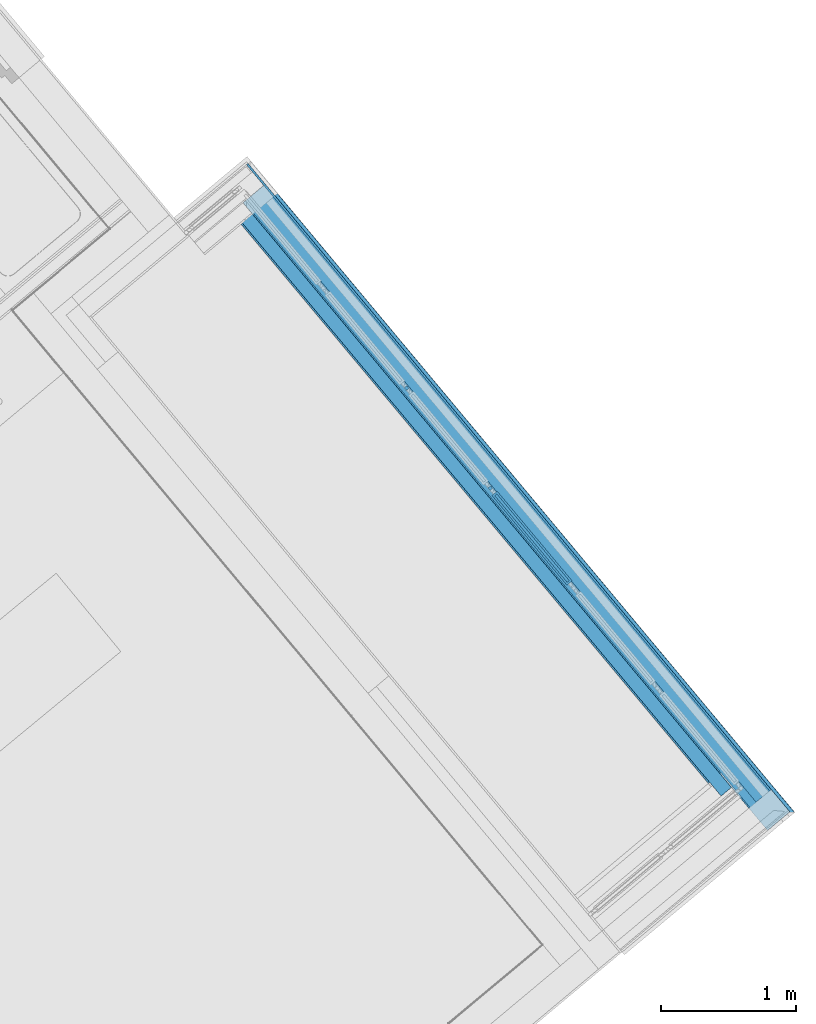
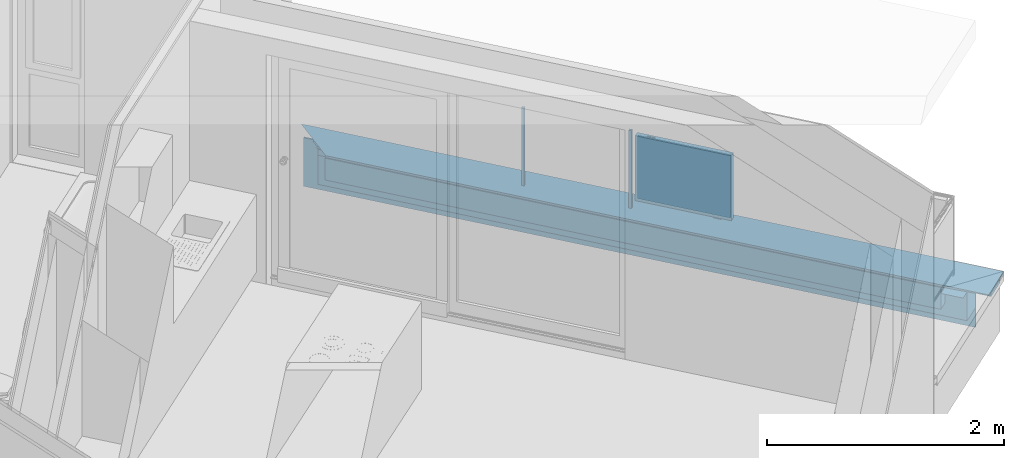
# One storey, part 37 of 53: 10 building element parts, 2 elements without a shape of their own.
"""IFC4 building model written with IfcOpenShell, lengths in metres."""

from ifc_helpers import new_model, entity, si_unit, converted_unit, derived_unit, direction, frame, origin_with_axes, place, context, subcontext, project, spatial, polygons, material, type_object, element, aggregate, save


model = new_model("IFC4")

# Units and contexts
model_context = context("Model", 3, precision=1e-05, world=origin_with_axes(), true_north=direction((0.0, 1.0)))
body_context = subcontext(model_context, "Body", "Model", "MODEL_VIEW")
ifc_project = project(units=[si_unit("LENGTHUNIT", "METRE"), si_unit("AREAUNIT", "SQUARE_METRE"), si_unit("VOLUMEUNIT", "CUBIC_METRE"), converted_unit("PLANEANGLEUNIT", "DEGREE", entity("IfcPlaneAngleMeasure", 0.0174532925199), si_unit("PLANEANGLEUNIT", "RADIAN"), dimensions=[0, 0, 0, 0, 0, 0, 0]), converted_unit("TIMEUNIT", "Year", entity("IfcTimeMeasure", 31556926.0), si_unit("TIMEUNIT", "SECOND"), dimensions=[0, 0, 1, 0, 0, 0, 0]), si_unit("MASSUNIT", "GRAM", prefix="KILO"), si_unit("THERMODYNAMICTEMPERATUREUNIT", "DEGREE_CELSIUS"), si_unit("LUMINOUSINTENSITYUNIT", "LUMEN"), si_unit("ENERGYUNIT", "JOULE", prefix="MEGA"), derived_unit("THERMALCONDUCTANCEUNIT", [(si_unit("POWERUNIT", "WATT"), 1), (si_unit("LENGTHUNIT", "METRE"), -1), (si_unit("THERMODYNAMICTEMPERATUREUNIT", "KELVIN"), -1)]), derived_unit("SPECIFICHEATCAPACITYUNIT", [(si_unit("ENERGYUNIT", "JOULE"), 1), (si_unit("MASSUNIT", "GRAM", prefix="KILO"), -1), (si_unit("THERMODYNAMICTEMPERATUREUNIT", "KELVIN"), -1)]), derived_unit("MASSDENSITYUNIT", [(si_unit("MASSUNIT", "GRAM", prefix="KILO"), 1), (si_unit("VOLUMEUNIT", "CUBIC_METRE"), -1)])], contexts=[model_context])

# Site, building, storey
site_placement = place(None, frame((-0.00153261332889, -0.00661245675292, 0.0), z_axis=(0.0, 0.0, 1.0), x_axis=(1.0, 0.0, 0.0)))
site = spatial("IfcSite", under=ifc_project, at=site_placement, Name="Gelände", CompositionType="ELEMENT")
building_placement = place(site_placement, origin_with_axes())
building = spatial("IfcBuilding", under=site, at=building_placement, Name="Gebäude", CompositionType="ELEMENT")
storey_placement = place(building_placement, frame((0.0, 0.0, 2.74), z_axis=(0.0, 0.0, 1.0), x_axis=(1.0, 0.0, 0.0)))
storey = spatial("IfcBuildingStorey", under=building, at=storey_placement, Name="OG1", CompositionType="ELEMENT", Elevation=2.74)

# Wall, building element parts
wall_type = type_object("IfcWallType", Name="Bauteil - Attika Balkon 356 x 610", PredefinedType="NOTDEFINED")
wall_placement = place(storey_placement, frame((10.5963720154, 25.814959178, -0.2), z_axis=(0.0, 0.0, 1.0), x_axis=(0.641206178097, -0.767368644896, 0.0)))
wall = element("IfcWall", 1, at=wall_placement, inside=storey, type_object=wall_type, Name="Wand-003", PredefinedType="NOTDEFINED")
ifc_material_1 = material(Name="Zementputz")
building_element_part_1_placement = place(wall_placement, origin_with_axes())
building_element_part_1 = element("IfcBuildingElementPart", 2, at=building_element_part_1_placement, material=ifc_material_1, Name="Zementputz", PredefinedType="NOTDEFINED", context=body_context, shape_type="Tessellation", body=[
    polygons([(5.82966796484, 0.199999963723, 0.500000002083), (5.82966789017, 0.214999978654, 0.500000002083), (-0.200001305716, 0.214999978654, 0.500000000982), (-0.200001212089, 0.199999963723, 0.500000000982), (5.82966789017, 0.214999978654, 0.498915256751), (5.82966796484, 0.199999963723, 0.498915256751), (5.82966789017, 0.214999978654, 0.498822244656), (5.82966789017, 0.214999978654, 0.496604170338), (5.82966789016, 0.214999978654, 0.491006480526), (5.82966789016, 0.214999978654, 0.488695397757), (5.82966789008, 0.214999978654, 0.335), (5.82966789, 0.214999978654, 0.200000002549), (5.82966789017, 0.214999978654, 0.0), (-0.200001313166, 0.214999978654, 0.0), (-0.200001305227, 0.214999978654, 0.2), (-0.200001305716, 0.214999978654, 0.334999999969), (-0.200001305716, 0.214999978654, 0.496604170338), (-0.200001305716, 0.214999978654, 0.498915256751), (-0.200001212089, 0.199999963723, 0.498915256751), (-0.200001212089, 0.199999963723, 0.496604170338), (-0.200001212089, 0.199999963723, 0.334999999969), (-0.2000012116, 0.199999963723, 0.2), (5.82966796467, 0.199999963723, 0.200000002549), (5.82966796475, 0.199999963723, 0.335), (5.82966796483, 0.199999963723, 0.488695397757), (5.82966796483, 0.199999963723, 0.491006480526), (5.82966796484, 0.199999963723, 0.496604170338), (5.82966796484, 0.199999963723, 0.498822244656), (5.82966796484, 0.199999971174, 0.0), (-0.200001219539, 0.199999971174, 0.0)], [[[1, 2, 3, 4]], [[5, 2, 1, 6]], [[2, 5, 7, 8, 9, 10, 11, 12, 13, 14, 15, 16, 17, 18, 3]], [[4, 3, 18, 19]], [[6, 1, 4, 19, 20, 21, 22, 23, 24, 25, 26, 27, 28]], [[5, 6, 28, 7]], [[7, 28, 27, 8]], [[8, 27, 26, 9]], [[9, 26, 25, 10]], [[10, 25, 24, 11]], [[11, 24, 23, 12]], [[12, 23, 29, 13]], [[13, 29, 30, 14]], [[22, 15, 14, 30]], [[21, 16, 15, 22]], [[20, 17, 16, 21]], [[19, 18, 17, 20]], [[29, 23, 22, 30]]], closed=True),
])
ifc_material_2 = material(Name="Brettschichtholz")
building_element_part_2_placement = place(wall_placement, origin_with_axes())
building_element_part_2 = element("IfcBuildingElementPart", 3, at=building_element_part_2_placement, material=ifc_material_2, Name="Brettschichtholz", PredefinedType="NOTDEFINED", context=body_context, shape_type="Tessellation", body=[
    polygons([(6.04466799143, 0.190124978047, 0.560000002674), (6.0446678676, 0.214999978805, 0.560000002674), (-1.34205095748e-06, 0.214999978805, 0.560000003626), (-1.18678595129e-06, 0.190124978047, 0.560000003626), (6.04466786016, 0.214999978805, 0.519273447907), (6.04466829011, 0.130124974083, 0.560000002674), (6.0446685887, 0.0701429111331, 0.560000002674), (6.04466888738, 0.010142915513, 0.560000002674), (6.04466893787, 0.0, 0.560000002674), (6.04466893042, 0.0, 0.519273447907), (6.04466786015, 0.214999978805, 0.519224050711), (6.04466785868, 0.214999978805, 0.511410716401), (6.04466785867, 0.214999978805, 0.51136132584), (6.04466785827, 0.214999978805, 0.509099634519), (6.04466785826, 0.214999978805, 0.509050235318), (6.04466785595, 0.214999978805, 0.50000001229), (-1.34205095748e-06, 0.214999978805, 0.499999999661), (-1.34205096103e-06, 0.214999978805, 0.506731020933), (-1.34205096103e-06, 0.214999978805, 0.509099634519), (-1.34205096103e-06, 0.214999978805, 0.511410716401), (-1.34205096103e-06, 0.214999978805, 0.519273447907), (0.0, 0.0, 0.519273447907), (0.0, 0.0, 0.560000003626), (-6.33722585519e-08, 0.010142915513, 0.560000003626), (-4.378807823e-07, 0.0701429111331, 0.560000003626), (-8.12277374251e-07, 0.130124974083, 0.560000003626), (0.0, 0.0, 0.511410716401), (0.0, 0.0, 0.509099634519), (0.0, 0.0, 0.506731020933), (0.0, 0.0, 0.499999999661), (6.04466892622, 0.0, 0.50000001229), (6.04466892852, 0.0, 0.509050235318), (6.04466892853, 0.0, 0.509099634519), (6.04466892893, 0.0, 0.51136132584), (6.04466892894, 0.0, 0.511410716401), (6.04466893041, 0.0, 0.519224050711)], [[[1, 2, 3, 4]], [[5, 2, 1, 6, 7, 8, 9, 10]], [[2, 5, 11, 12, 13, 14, 15, 16, 17, 18, 19, 20, 21, 3]], [[4, 3, 21, 22, 23, 24, 25, 26]], [[6, 1, 4, 26]], [[7, 6, 26, 25]], [[8, 7, 25, 24]], [[9, 8, 24, 23]], [[10, 9, 23, 22, 27, 28, 29, 30, 31, 32, 33, 34, 35, 36]], [[5, 10, 36, 11]], [[11, 36, 35, 12]], [[12, 35, 34, 13]], [[13, 34, 33, 14]], [[14, 33, 32, 15]], [[15, 32, 31, 16]], [[30, 17, 16, 31]], [[29, 18, 17, 30]], [[28, 19, 18, 29]], [[27, 20, 19, 28]], [[22, 21, 20, 27]]], closed=True),
])
ifc_material_3 = material(Name="Stahlbeton")
building_element_part_3_placement = place(wall_placement, origin_with_axes())
building_element_part_3 = element("IfcBuildingElementPart", 4, at=building_element_part_3_placement, material=ifc_material_3, Name="Stahlbeton", PredefinedType="NOTDEFINED", context=body_context, shape_type="Tessellation", body=[
    polygons([(5.82966896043, 1.05297104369e-09, 0.500000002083), (5.82966796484, 0.19999996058, 0.500000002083), (-1.24941457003e-06, 0.19999996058, 0.500000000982), (-1.05297814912e-09, 1.05297104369e-09, 0.500000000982), (5.82966796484, 0.19999996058, 0.498915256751), (5.82966896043, 1.05297104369e-09, 0.498915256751), (5.82966796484, 0.19999996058, 0.498822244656), (5.82966796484, 0.19999996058, 0.496604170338), (5.82966796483, 0.19999996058, 0.491006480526), (5.82966796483, 0.19999996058, 0.488695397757), (5.82966796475, 0.19999996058, 0.335), (5.82966796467, 0.19999996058, 0.200000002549), (-1.24941457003e-06, 0.19999996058, 0.2), (-1.24941457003e-06, 0.19999996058, 0.334999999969), (-1.24941457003e-06, 0.19999996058, 0.496604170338), (-1.24941457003e-06, 0.19999996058, 0.498915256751), (-1.05298170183e-09, 1.0529745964e-09, 0.498915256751), (-1.05298170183e-09, 1.0529745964e-09, 0.496604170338), (-1.05297814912e-09, 1.05297104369e-09, 0.334999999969), (5.82966896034, 1.05297104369e-09, 0.335), (5.82966896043, 1.05297104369e-09, 0.488695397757), (5.82966896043, 1.05297104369e-09, 0.491006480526), (5.82966896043, 1.05297104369e-09, 0.496604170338), (5.82966896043, 1.05296749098e-09, 0.498822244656), (5.82966896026, 1.05297104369e-09, 0.200000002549), (-1.05298170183e-09, 1.05297104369e-09, 0.2)], [[[1, 2, 3, 4]], [[5, 2, 1, 6]], [[2, 5, 7, 8, 9, 10, 11, 12, 13, 14, 15, 16, 3]], [[4, 3, 16, 17]], [[6, 1, 4, 17, 18, 19, 20, 21, 22, 23, 24]], [[5, 6, 24, 7]], [[7, 24, 23, 8]], [[8, 23, 22, 9]], [[9, 22, 21, 10]], [[10, 21, 20, 11]], [[11, 20, 25, 12]], [[12, 25, 26, 13]], [[19, 14, 13, 26]], [[18, 15, 14, 19]], [[17, 16, 15, 18]], [[25, 20, 19, 26]]], closed=True),
])
ifc_material_4 = material(Name="Vollholz")
building_element_part_4_placement = place(wall_placement, origin_with_axes())
building_element_part_4 = element("IfcBuildingElementPart", 5, at=building_element_part_4_placement, material=ifc_material_4, Name="Vollholz", PredefinedType="NOTDEFINED", context=body_context, shape_type="Tessellation", body=[
    polygons([(6.01968753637, 0.0100326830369, 0.57982217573), (6.0196759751, 0.0701429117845, 0.581921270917), (-0.0701433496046, 0.0701429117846, 0.581921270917), (-0.0100327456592, 0.010032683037, 0.579822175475), (6.01968723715, 0.0701429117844, 0.57982217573), (6.01970785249, 0.0701429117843, 0.575979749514), (5.95979359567, 0.0701429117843, 0.575979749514), (5.72966861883, 0.0701429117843, 0.575979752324), (5.7296686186, 0.0701429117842, 0.575576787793), (5.72966861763, 0.0701429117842, 0.573880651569), (5.72966861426, 0.0701429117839, 0.567947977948), (5.72966860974, 0.0701429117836, 0.560000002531), (-0.0101433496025, 0.0701429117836, 0.560000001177), (-0.010056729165, 0.0701429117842, 0.575576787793), (-0.0100331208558, 0.0701429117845, 0.579822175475), (6.01970815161, 0.0100540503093, 0.575979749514), (-0.0100563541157, 0.0100562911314, 0.575576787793), (-0.0101429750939, 0.0101429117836, 0.560000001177), (5.72966890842, 0.0101429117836, 0.560000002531), (5.72966891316, 0.0100987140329, 0.567947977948), (5.7296689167, 0.0100657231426, 0.573880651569), (5.72966891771, 0.0100562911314, 0.575576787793), (5.72966891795, 0.0100540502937, 0.575979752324), (5.95979389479, 0.0100540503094, 0.575979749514)], [[[1, 2, 3, 4]], [[5, 2, 1]], [[2, 5, 6, 7, 8, 9, 10, 11, 12, 13, 14, 15, 3]], [[3, 15, 4]], [[16, 1, 4, 17, 18, 19, 20, 21, 22, 23, 24]], [[5, 1, 16, 6]], [[6, 16, 24, 7]], [[8, 7, 24, 23]], [[9, 8, 23, 22]], [[9, 22, 21, 10]], [[10, 21, 20, 11]], [[11, 20, 19, 12]], [[12, 19, 18, 13]], [[17, 14, 13, 18]], [[4, 15, 14, 17]]], closed=True),
])
ifc_material_5 = material(Name="EPS 1")
building_element_part_5_placement = place(wall_placement, origin_with_axes())
building_element_part_5 = element("IfcBuildingElementPart", 6, at=building_element_part_5_placement, material=ifc_material_5, Name="EPS 1", PredefinedType="NOTDEFINED", context=body_context, shape_type="Tessellation", body=[
    polygons([(5.62966945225, -0.0999999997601, 0.560000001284), (5.62966895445, 2.39904096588e-10, 0.560000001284), (0.099999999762, 2.39911202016e-10, 0.560000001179), (0.100000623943, -0.0999999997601, 0.560000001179), (5.62966896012, 2.39904096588e-10, 0.519273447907), (5.62966945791, -0.0999999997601, 0.519273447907), (5.62966896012, 2.39904096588e-10, 0.519224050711), (5.62966896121, 2.39907649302e-10, 0.511410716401), (5.62966896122, 2.39904096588e-10, 0.51136132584), (5.62966896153, 2.39907649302e-10, 0.509099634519), (5.62966896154, 2.39907649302e-10, 0.509050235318), (5.62966896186, 2.39904096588e-10, 0.506731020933), (5.6296689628, 2.39932518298e-10, 0.500000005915), (5.62966895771, 2.39904096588e-10, 0.498915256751), (5.82966896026, 2.39904096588e-10, 0.498915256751), (5.62966895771, 2.39904096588e-10, 0.498822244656), (5.62966895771, 2.39904096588e-10, 0.496604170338), (5.62966895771, 2.39904096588e-10, 0.491006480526), (5.62966895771, 2.39904096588e-10, 0.488695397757), (5.62966895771, 2.39904096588e-10, 0.334999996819), (0.099999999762, 2.39911202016e-10, 0.334999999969), (0.099999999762, 2.39911202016e-10, 0.496604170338), (0.099999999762, 2.39911202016e-10, 0.498915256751), (0.099999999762, 2.39911202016e-10, 0.499999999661), (0.099999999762, 2.39911202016e-10, 0.506731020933), (0.099999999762, 2.39911202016e-10, 0.509099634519), (0.099999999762, 2.39911202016e-10, 0.511410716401), (0.099999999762, 2.39911202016e-10, 0.519273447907), (0.100000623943, -0.0999999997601, 0.519273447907), (0.100000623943, -0.0999999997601, 0.511410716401), (0.100000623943, -0.0999999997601, 0.509099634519), (0.100000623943, -0.0999999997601, 0.506731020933), (0.100000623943, -0.0999999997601, 0.499999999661), (0.100000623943, -0.0999999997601, 0.498915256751), (0.100000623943, -0.0999999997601, 0.496604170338), (0.100000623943, -0.0999999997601, 0.334999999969), (5.62966945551, -0.0999999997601, 0.334999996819), (5.62966945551, -0.0999999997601, 0.488695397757), (5.62966945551, -0.0999999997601, 0.491006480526), (5.62966945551, -0.0999999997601, 0.496604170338), (5.62966945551, -0.0999999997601, 0.498915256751), (5.6296694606, -0.0999999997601, 0.500000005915), (5.62966945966, -0.0999999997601, 0.506731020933), (5.62966945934, -0.0999999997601, 0.509050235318), (5.62966945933, -0.0999999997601, 0.509099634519), (5.62966945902, -0.0999999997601, 0.51136132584), (5.62966945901, -0.0999999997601, 0.511410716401), (5.62966945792, -0.0999999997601, 0.519224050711), (5.82966945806, -0.0999999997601, 0.498915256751)], [[[1, 2, 3, 4]], [[5, 2, 1, 6]], [[2, 5, 7, 8, 9, 10, 11, 12, 13, 14, 15, 16, 17, 18, 19, 20, 21, 22, 23, 24, 25, 26, 27, 28, 3]], [[3, 28, 29, 4]], [[6, 1, 4, 29, 30, 31, 32, 33, 34, 35, 36, 37, 38, 39, 40, 41, 42, 43, 44, 45, 46, 47, 48]], [[5, 6, 48, 7]], [[48, 47, 8, 7]], [[46, 9, 8, 47]], [[10, 9, 46, 45]], [[44, 11, 10, 45]], [[12, 11, 44, 43]], [[12, 43, 42, 13]], [[42, 41, 14, 13]], [[14, 41, 49, 15]], [[15, 49, 16]], [[16, 41, 40, 17]], [[40, 39, 18, 17]], [[19, 18, 39, 38]], [[19, 38, 37, 20]], [[37, 36, 21, 20]], [[21, 36, 35, 22]], [[35, 34, 23, 22]], [[33, 24, 23, 34]], [[33, 32, 25, 24]], [[32, 31, 26, 25]], [[27, 26, 31, 30]], [[28, 27, 30, 29]], [[49, 41, 16]]], closed=True),
])
ifc_material_6 = material(Name="Holzwerkstoff")
building_element_part_6_placement = place(wall_placement, origin_with_axes())
building_element_part_6 = element("IfcBuildingElementPart", 7, at=building_element_part_6_placement, material=ifc_material_6, Name="Holzwerkstoff", PredefinedType="NOTDEFINED", context=body_context, shape_type="Tessellation", body=[
    polygons([(0.111540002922, -0.111539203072, 0.575576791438), (0.11168825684, -0.111687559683, 0.579822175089), (0.111687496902, 0.0100327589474, 0.579822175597), (0.111761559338, -0.111760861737, 0.581921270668), (5.71813019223, -0.111539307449, 0.575576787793), (5.72966952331, -0.111553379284, 0.575979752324), (5.83970216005, -0.111687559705, 0.57982217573), (5.89981240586, -0.111760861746, 0.581921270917), (5.95979449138, -0.111834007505, 0.584015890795), (6.0196544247, -0.111907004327, 0.586106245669), (6.06966950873, -0.111967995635, 0.587852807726), (6.06966655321, -0.111970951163, 0.587937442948), (6.06939037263, -0.112247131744, 0.595846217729), (0.11224783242, -0.112247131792, 0.5958462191), (0.111907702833, -0.111907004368, 0.586106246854), (0.111834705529, -0.11183400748, 0.584015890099), (0.111760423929, 0.0701429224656, 0.581921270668), (5.83970155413, 0.0100327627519, 0.57982217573), (5.7296694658, -0.0999999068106, 0.575979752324), (5.89981148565, 0.0701429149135, 0.581921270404), (5.95979328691, 0.130124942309, 0.584015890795), (6.01965290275, 0.189984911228, 0.586106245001), (6.06966775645, 0.23999998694, 0.587852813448), (6.06966480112, 0.239997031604, 0.587937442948), (6.06938862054, 0.239720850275, 0.595846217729), (-0.239277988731, 0.239276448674, 0.608570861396), (6.068944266, 0.23927649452, 0.608570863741), (0.112245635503, 0.239720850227, 0.5958462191), (0.11196649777, 0.23999998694, 0.587852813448), (0.11190581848, 0.189984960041, 0.586106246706), (0.111833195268, 0.130124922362, 0.584015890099)], [[[1, 2, 3]], [[4, 2, 1, 5, 6, 7, 8, 9, 10, 11, 12, 13, 14, 15, 16]], [[2, 4, 17, 3]], [[1, 3, 18, 19, 5]], [[6, 5, 19]], [[7, 6, 19, 18]], [[8, 7, 18, 20]], [[9, 8, 20, 21]], [[10, 9, 21, 22]], [[11, 10, 22, 23]], [[11, 23, 24, 12]], [[13, 12, 24, 25]], [[26, 14, 13, 27]], [[15, 14, 28, 29, 30]], [[16, 15, 30, 31]], [[4, 16, 31, 17]], [[3, 17, 20, 18]], [[17, 31, 21, 20]], [[31, 30, 22, 21]], [[30, 29, 23, 22]], [[29, 28, 26, 27, 25, 24, 23]], [[13, 25, 27]], [[28, 14, 26]]], closed=True),
])
aggregate(wall, [building_element_part_1, building_element_part_2, building_element_part_3, building_element_part_4, building_element_part_5, building_element_part_6])

# Space
space_placement = place(storey_placement, frame((9.48027034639, 24.9670510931, 0.22), z_axis=(0.0, 0.0, 1.0), x_axis=(0.641209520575, -0.76736585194, 0.0)))
space = spatial("IfcSpace", under=storey, at=space_placement, CompositionType="ELEMENT", PredefinedType="NOTDEFINED")

# Railing, building element parts
railing_type = type_object("IfcRailingType", Name="Geländerart", PredefinedType="NOTDEFINED")
railing_placement = place(space_placement, frame((5.69466912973, 0.0, 0.16), z_axis=(0.0, 0.0, 1.0), x_axis=(0.641209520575, 0.76736585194, 0.0)))
railing = element("IfcRailing", 8, at=railing_placement, inside=space, type_object=railing_type, Name="Geländer - 001", PredefinedType="NOTDEFINED")
ifc_material_7 = material(Name="Profilit")
building_element_part_7_placement = place(railing_placement, origin_with_axes())
building_element_part_7 = element("IfcBuildingElementPart", 9, at=building_element_part_7_placement, material=ifc_material_7, Name="Profilit", PredefinedType="NOTDEFINED", context=body_context, shape_type="Tessellation", body=[
    polygons([(-0.674142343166, 3.05274068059, 0.135), (-0.139839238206, 2.41330913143, 0.135), (-0.139839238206, 2.41330913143, 0.775), (-0.674142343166, 3.05274068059, 0.775), (-0.124491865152, 2.4261332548, 0.135), (-0.658794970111, 3.06556480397, 0.135), (-0.124491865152, 2.4261332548, 0.775), (-0.658794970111, 3.06556480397, 0.775)], [[[1, 2, 3, 4]], [[5, 2, 1, 6]], [[7, 3, 2, 5]], [[4, 3, 7, 8]], [[1, 4, 8, 6]], [[7, 5, 6, 8]]], closed=True),
])
ifc_material_8 = material(Name="Aluminium")
building_element_part_8_placement = place(railing_placement, origin_with_axes())
building_element_part_8 = element("IfcBuildingElementPart", 10, at=building_element_part_8_placement, material=ifc_material_8, Name="Aluminium", PredefinedType="NOTDEFINED", context=body_context, shape_type="Tessellation", body=[
    polygons([(-0.188586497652, 2.48334451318, 0.12), (-0.233470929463, 2.53706031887, 0.12), (-0.233470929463, 2.53706031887, 0.095), (-0.188586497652, 2.48334451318, 0.095), (-0.184749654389, 2.48655054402, 0.12), (-0.2296340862, 2.54026634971, 0.12), (-0.2296340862, 2.54026634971, 0.095), (-0.184749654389, 2.48655054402, 0.095)], [[[1, 2, 3, 4]], [[5, 6, 2, 1]], [[2, 6, 7, 3]], [[4, 3, 7, 8]], [[1, 4, 8, 5]], [[8, 7, 6, 5]]], closed=True),
    polygons([(-0.613884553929, 2.99232339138, 0.79), (-0.569000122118, 2.93860758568, 0.79), (-0.569000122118, 2.93860758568, 0.795), (-0.613884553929, 2.99232339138, 0.795), (-0.610047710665, 2.99552942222, 0.79), (-0.565163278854, 2.94181361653, 0.79), (-0.565163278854, 2.94181361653, 0.795), (-0.610047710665, 2.99552942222, 0.795)], [[[1, 2, 3, 4]], [[5, 6, 2, 1]], [[2, 6, 7, 3]], [[4, 3, 7, 8]], [[1, 4, 8, 5]], [[8, 7, 6, 5]]], closed=True),
    polygons([(-0.10336324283, 2.42424081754, 0.12), (-0.141731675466, 2.39218050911, 0.12), (-0.695270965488, 3.05463311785, 0.12), (-0.656902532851, 3.08669342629, 0.12), (-0.116187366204, 2.4395881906, 0.14), (-0.127697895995, 2.42997009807, 0.14), (-0.124491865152, 2.4261332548, 0.135), (-0.139839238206, 2.41330913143, 0.135), (-0.14304526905, 2.41714597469, 0.14), (-0.154555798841, 2.40752788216, 0.14), (-0.682446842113, 3.0392857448, 0.14), (-0.682446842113, 3.0392857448, 0.77), (-0.154555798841, 2.40752788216, 0.77), (-0.154555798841, 2.40752788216, 0.14), (-0.141731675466, 2.39218050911, 0.12), (-0.141731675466, 2.39218050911, 0.79), (-0.695270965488, 3.05463311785, 0.79), (-0.656902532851, 3.08669342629, 0.79), (-0.10336324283, 2.42424081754, 0.79), (-0.10336324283, 2.42424081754, 0.12), (-0.116187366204, 2.4395881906, 0.14), (-0.116187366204, 2.4395881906, 0.77), (-0.644078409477, 3.07134605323, 0.77), (-0.644078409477, 3.07134605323, 0.14), (-0.655588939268, 3.0617279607, 0.14), (-0.655588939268, 3.0617279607, 0.77), (-0.127697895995, 2.42997009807, 0.77), (-0.127697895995, 2.42997009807, 0.14), (-0.124491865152, 2.4261332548, 0.135), (-0.124491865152, 2.4261332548, 0.775), (-0.658794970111, 3.06556480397, 0.775), (-0.658794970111, 3.06556480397, 0.135), (-0.674142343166, 3.05274068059, 0.135), (-0.674142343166, 3.05274068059, 0.775), (-0.139839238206, 2.41330913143, 0.775), (-0.139839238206, 2.41330913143, 0.135), (-0.14304526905, 2.41714597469, 0.14), (-0.14304526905, 2.41714597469, 0.77), (-0.670936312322, 3.04890383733, 0.77), (-0.670936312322, 3.04890383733, 0.14)], [[[1, 2, 3, 4]], [[1, 5, 6, 7, 8, 9, 10, 2]], [[2, 10, 11, 12, 13, 14, 15, 16, 17, 3]], [[4, 3, 17, 18]], [[5, 1, 4, 18, 19, 20, 21, 22, 23, 24]], [[6, 5, 24, 25]], [[7, 6, 25, 26, 27, 28, 29, 30, 31, 32]], [[8, 7, 32, 33]], [[9, 8, 33, 34, 35, 36, 37, 38, 39, 40]], [[10, 9, 40, 11]], [[11, 40, 39, 12]], [[12, 39, 38, 13]], [[13, 38, 37, 14]], [[20, 15, 14, 37, 36, 29, 28, 21]], [[19, 16, 15, 20]], [[18, 17, 16, 19]], [[27, 22, 21, 28]], [[26, 23, 22, 27]], [[25, 24, 23, 26]], [[35, 30, 29, 36]], [[34, 31, 30, 35]], [[33, 32, 31, 34]]], closed=True),
])
building_element_part_9_placement = place(railing_placement, origin_with_axes())
building_element_part_9 = element("IfcBuildingElementPart", 11, at=building_element_part_9_placement, material=ifc_material_8, Name="Aluminium", PredefinedType="NOTDEFINED", context=body_context, shape_type="Tessellation", body=[
    polygons([(-0.706570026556, 3.12663888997, -0.3), (-0.725754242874, 3.11060873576, -0.3), (-0.725754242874, 3.11060873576, 0.82), (-0.706570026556, 3.12663888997, 0.82), (-0.690539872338, 3.10745467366, -0.3), (-0.709724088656, 3.09142451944, -0.3), (-0.709724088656, 3.09142451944, 0.82), (-0.690539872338, 3.10745467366, 0.82)], [[[1, 2, 3, 4]], [[1, 5, 6, 2]], [[2, 6, 7, 3]], [[4, 3, 7, 8]], [[5, 1, 4, 8]], [[6, 5, 8, 7]]], closed=True),
])
building_element_part_10_placement = place(railing_placement, origin_with_axes())
building_element_part_10 = element("IfcBuildingElementPart", 12, at=building_element_part_10_placement, material=ifc_material_8, Name="Aluminium", PredefinedType="NOTDEFINED", context=body_context, shape_type="Tessellation", body=[
    polygons([(-1.32422993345, 3.86582836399, -0.3), (-1.34341414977, 3.84979820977, -0.3), (-1.34341414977, 3.84979820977, 0.82), (-1.32422993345, 3.86582836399, 0.82), (-1.30819977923, 3.84664414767, -0.3), (-1.32738399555, 3.83061399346, -0.3), (-1.32738399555, 3.83061399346, 0.82), (-1.30819977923, 3.84664414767, 0.82)], [[[1, 2, 3, 4]], [[1, 5, 6, 2]], [[2, 6, 7, 3]], [[4, 3, 7, 8]], [[5, 1, 4, 8]], [[6, 5, 8, 7]]], closed=True),
])
aggregate(railing, [building_element_part_7, building_element_part_8, building_element_part_9, building_element_part_10])

save(model, "model.ifc")
